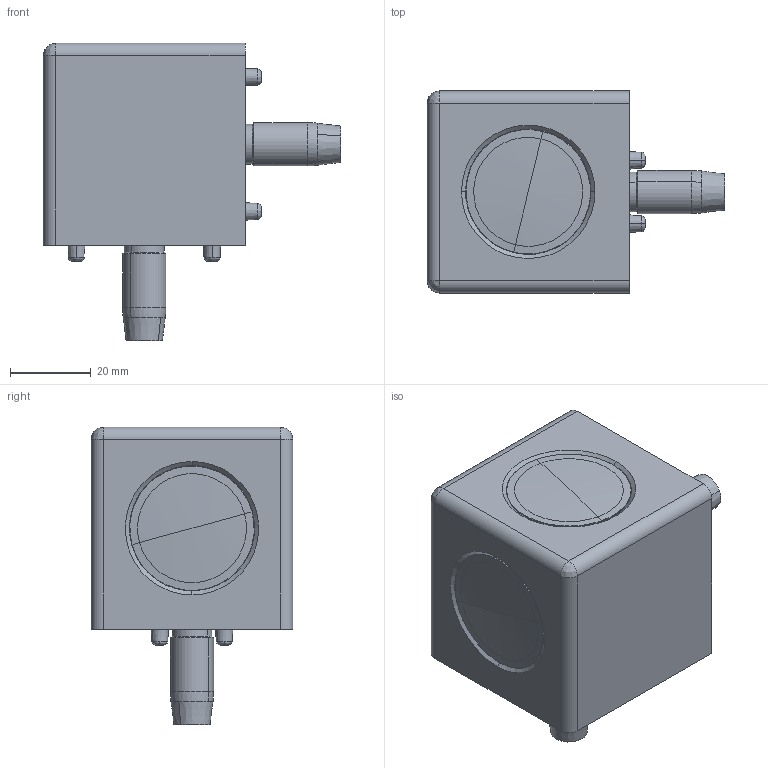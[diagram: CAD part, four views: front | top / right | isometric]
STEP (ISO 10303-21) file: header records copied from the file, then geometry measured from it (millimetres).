
FILE_DESCRIPTION (( 'STEP AP203' ), '1' );
FILE_NAME ('334045_Würfelverbinder-Satz 50-2.step', '2018-11-28T07:33:48', ( '' ), ( '' ), 'SwSTEP 2.0', 'SolidWorks 2017', '' );
FILE_SCHEMA (( 'CONFIG_CONTROL_DESIGN' ));
Length unit declared in the file: millimetre
Products named in the file (4): 99900183 Abdeckkappe Würfelverbinder D30 schwarz; 330020 Zentralschraube SF12x30 T50; 334045_Würfelverbinder-Satz 50-2; 99900179 Würfelverbinder 50-2
Assembly tree (5 placements, depth 2):
  334045_Würfelverbinder-Satz 50-2
    99900179 Würfelverbinder 50-2
    330020 Zentralschraube SF12x30 T50  x2
    99900183 Abdeckkappe Würfelverbinder D30 schwarz  x2
Bounding box: 73.73 x 50 x 73.73 mm (x, y, z)
Volume: 90296.9 mm3; surface area: 26118.6 mm2
Topology: 5 solids, 5 shells, 287 faces, 739 edges, 472 vertices
Faces by surface type: plane 98, cylinder 93, cone 56, bspline 28, torus 8, sphere 4
Entity records: 6728 total; most frequent: CARTESIAN_POINT 1906, DIRECTION 947, ORIENTED_EDGE 912, EDGE_CURVE 456, AXIS2_PLACEMENT_3D 378, VERTEX_POINT 291, CIRCLE 211, EDGE_LOOP 203
